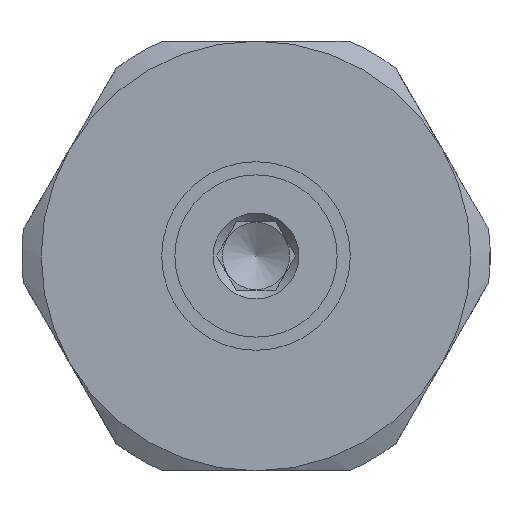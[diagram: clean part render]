
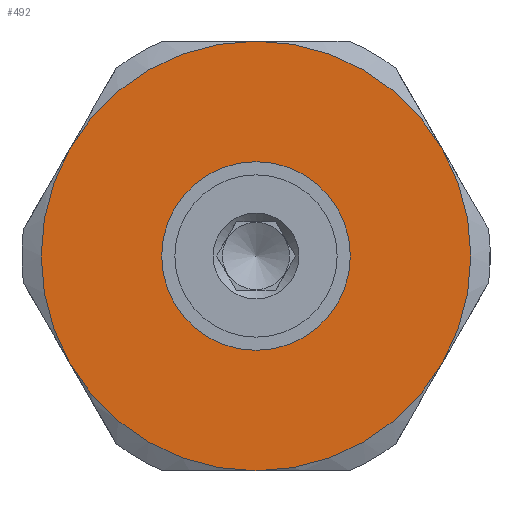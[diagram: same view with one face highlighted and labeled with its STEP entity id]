
A CAD part, left-side view. The second image highlights one B-rep face of the part: STEP entity #492.
In plain terms, the highlighted planar face has unit normal (-1, 0, 0).
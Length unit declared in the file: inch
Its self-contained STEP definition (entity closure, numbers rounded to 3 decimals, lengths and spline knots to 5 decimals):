
#413=CARTESIAN_POINT('',(-1.,0.2195,1.0));
#414=VERTEX_POINT('',#413);
#415=CARTESIAN_POINT('',(-1.,0.,1.0));
#416=DIRECTION('',(1.0,0.0,0.0));
#417=DIRECTION('',(0.0,1.0,0.0));
#418=AXIS2_PLACEMENT_3D('',#415,#416,#417);
#419=CIRCLE('',#418,0.2195);
#420=EDGE_CURVE('',#414,#414,#419,.T.);
#428=CARTESIAN_POINT('',(-1.,0.,1.));
#429=DIRECTION('',(1.0,0.0,0.0));
#430=DIRECTION('',(0.0,0.0,-1.0));
#431=AXIS2_PLACEMENT_3D('',#428,#429,#430);
#432=PLANE('',#431);
#433=CARTESIAN_POINT('',(-1.,-0.43301,1.25));
#434=VERTEX_POINT('',#433);
#435=CARTESIAN_POINT('',(-1.,0.,1.5));
#436=VERTEX_POINT('',#435);
#437=CARTESIAN_POINT('',(-1.,0.,1.0));
#438=DIRECTION('',(-1.0,0.0,0.0));
#439=DIRECTION('',(0.0,1.0,0.0));
#440=AXIS2_PLACEMENT_3D('',#437,#438,#439);
#441=CIRCLE('',#440,0.5);
#442=EDGE_CURVE('',#434,#436,#441,.T.);
#443=ORIENTED_EDGE('',*,*,#442,.T.);
#444=CARTESIAN_POINT('',(-1.,0.43301,1.25));
#445=VERTEX_POINT('',#444);
#446=CARTESIAN_POINT('',(-1.,0.,1.0));
#447=DIRECTION('',(-1.0,0.0,0.0));
#448=DIRECTION('',(0.0,1.0,0.0));
#449=AXIS2_PLACEMENT_3D('',#446,#447,#448);
#450=CIRCLE('',#449,0.5);
#451=EDGE_CURVE('',#436,#445,#450,.T.);
#452=ORIENTED_EDGE('',*,*,#451,.T.);
#453=CARTESIAN_POINT('',(-1.,0.43301,0.75));
#454=VERTEX_POINT('',#453);
#455=CARTESIAN_POINT('',(-1.,0.,1.0));
#456=DIRECTION('',(-1.0,0.0,0.0));
#457=DIRECTION('',(0.0,1.0,0.0));
#458=AXIS2_PLACEMENT_3D('',#455,#456,#457);
#459=CIRCLE('',#458,0.5);
#460=EDGE_CURVE('',#445,#454,#459,.T.);
#461=ORIENTED_EDGE('',*,*,#460,.T.);
#462=CARTESIAN_POINT('',(-1.,0.,0.5));
#463=VERTEX_POINT('',#462);
#464=CARTESIAN_POINT('',(-1.,0.,1.0));
#465=DIRECTION('',(-1.0,0.0,0.0));
#466=DIRECTION('',(0.0,1.0,0.0));
#467=AXIS2_PLACEMENT_3D('',#464,#465,#466);
#468=CIRCLE('',#467,0.5);
#469=EDGE_CURVE('',#454,#463,#468,.T.);
#470=ORIENTED_EDGE('',*,*,#469,.T.);
#471=CARTESIAN_POINT('',(-1.,-0.43301,0.75));
#472=VERTEX_POINT('',#471);
#473=CARTESIAN_POINT('',(-1.,0.,1.0));
#474=DIRECTION('',(-1.0,0.0,0.0));
#475=DIRECTION('',(0.0,1.0,0.0));
#476=AXIS2_PLACEMENT_3D('',#473,#474,#475);
#477=CIRCLE('',#476,0.5);
#478=EDGE_CURVE('',#463,#472,#477,.T.);
#479=ORIENTED_EDGE('',*,*,#478,.T.);
#480=CARTESIAN_POINT('',(-1.,0.,1.0));
#481=DIRECTION('',(-1.0,0.0,0.0));
#482=DIRECTION('',(0.0,1.0,0.0));
#483=AXIS2_PLACEMENT_3D('',#480,#481,#482);
#484=CIRCLE('',#483,0.5);
#485=EDGE_CURVE('',#472,#434,#484,.T.);
#486=ORIENTED_EDGE('',*,*,#485,.T.);
#487=EDGE_LOOP('',(#443,#452,#461,#470,#479,#486));
#488=FACE_OUTER_BOUND('',#487,.T.);
#489=ORIENTED_EDGE('',*,*,#420,.T.);
#490=EDGE_LOOP('',(#489));
#491=FACE_BOUND('',#490,.T.);
#492=ADVANCED_FACE('',(#488,#491),#432,.F.);
